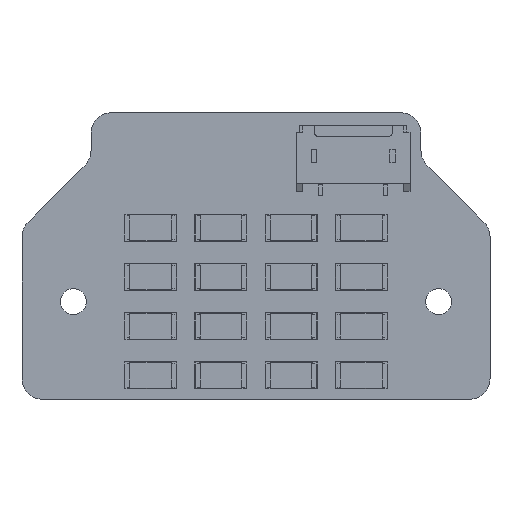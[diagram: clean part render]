
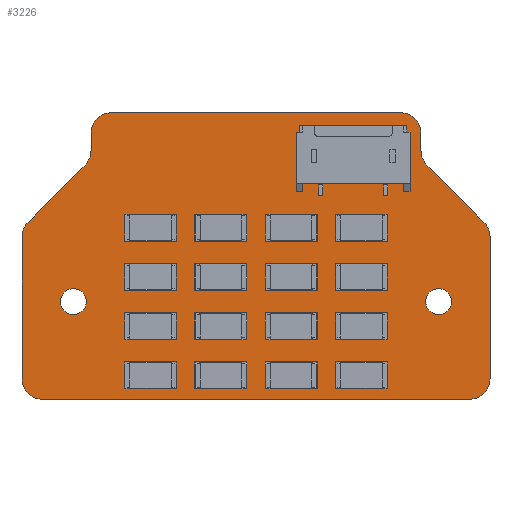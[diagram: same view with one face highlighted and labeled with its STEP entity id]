
A CAD part, top view. The second image highlights one B-rep face of the part: STEP entity #3226.
In plain terms, the highlighted planar face has unit normal (0, 0, 1).
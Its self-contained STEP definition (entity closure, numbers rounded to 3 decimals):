
#2692=FACE_OUTER_BOUND($,#2844,.F.);
#2710=FACE_OUTER_BOUND($,#2862,.T.);
#2714=FACE_OUTER_BOUND($,#2866,.T.);
#2844=EDGE_LOOP($,(#5195,#5196,#5197,#5198,#5199,#5200,#5201,#5202,#5203,
#5204,#5205,#5206,#5207,#5208,#5209,#5210));
#2862=EDGE_LOOP($,(#5291,#5292));
#2866=EDGE_LOOP($,(#5303,#5304));
#3060=PLANE($,#4888);
#3226=ADVANCED_FACE($,(#2692,#2710,#2714),#3060,.T.);
#3426=VECTOR($,#7324,2.123);
#3427=VECTOR($,#7325,35.56);
#3428=VECTOR($,#7326,2.123);
#3429=VECTOR($,#7327,9.929);
#3430=VECTOR($,#7328,17.49);
#3431=VECTOR($,#7329,52.578);
#3432=VECTOR($,#7330,17.49);
#3433=VECTOR($,#7331,9.929);
#4111=LINE($,#8527,#3426);
#4112=LINE($,#8529,#3427);
#4113=LINE($,#8531,#3428);
#4114=LINE($,#8533,#3429);
#4115=LINE($,#8535,#3430);
#4116=LINE($,#8537,#3431);
#4117=LINE($,#8539,#3432);
#4118=LINE($,#8541,#3433);
#4796=CIRCLE($,#4880,2.54);
#4797=CIRCLE($,#4881,2.54);
#4798=CIRCLE($,#4882,2.54);
#4799=CIRCLE($,#4883,2.54);
#4800=CIRCLE($,#4884,2.54);
#4801=CIRCLE($,#4885,2.54);
#4802=CIRCLE($,#4886,2.54);
#4803=CIRCLE($,#4887,2.54);
#4812=CIRCLE($,#4914,1.6);
#4813=CIRCLE($,#4915,1.6);
#4816=CIRCLE($,#4920,1.6);
#4817=CIRCLE($,#4921,1.6);
#4880=AXIS2_PLACEMENT_3D($,#8543,#7321,$);
#4881=AXIS2_PLACEMENT_3D($,#8544,#7321,$);
#4882=AXIS2_PLACEMENT_3D($,#8545,#7321,$);
#4883=AXIS2_PLACEMENT_3D($,#8546,#7321,$);
#4884=AXIS2_PLACEMENT_3D($,#8547,#7321,$);
#4885=AXIS2_PLACEMENT_3D($,#8548,#7321,$);
#4886=AXIS2_PLACEMENT_3D($,#8549,#7321,$);
#4887=AXIS2_PLACEMENT_3D($,#8550,#7321,$);
#4888=AXIS2_PLACEMENT_3D($,#8527,#7321,$);
#4914=AXIS2_PLACEMENT_3D($,#8587,#7321,$);
#4915=AXIS2_PLACEMENT_3D($,#8588,#7321,$);
#4920=AXIS2_PLACEMENT_3D($,#8599,#7321,$);
#4921=AXIS2_PLACEMENT_3D($,#8600,#7321,$);
#5195=ORIENTED_EDGE($,*,*,#6303,.T.);
#5196=ORIENTED_EDGE($,*,*,#6304,.T.);
#5197=ORIENTED_EDGE($,*,*,#6305,.T.);
#5198=ORIENTED_EDGE($,*,*,#6306,.T.);
#5199=ORIENTED_EDGE($,*,*,#6307,.T.);
#5200=ORIENTED_EDGE($,*,*,#6308,.T.);
#5201=ORIENTED_EDGE($,*,*,#6309,.T.);
#5202=ORIENTED_EDGE($,*,*,#6310,.T.);
#5203=ORIENTED_EDGE($,*,*,#6311,.T.);
#5204=ORIENTED_EDGE($,*,*,#6312,.T.);
#5205=ORIENTED_EDGE($,*,*,#6313,.T.);
#5206=ORIENTED_EDGE($,*,*,#6314,.T.);
#5207=ORIENTED_EDGE($,*,*,#6315,.T.);
#5208=ORIENTED_EDGE($,*,*,#6316,.T.);
#5209=ORIENTED_EDGE($,*,*,#6317,.T.);
#5210=ORIENTED_EDGE($,*,*,#6318,.T.);
#5291=ORIENTED_EDGE($,*,*,#6352,.T.);
#5292=ORIENTED_EDGE($,*,*,#6353,.T.);
#5303=ORIENTED_EDGE($,*,*,#6359,.T.);
#5304=ORIENTED_EDGE($,*,*,#6360,.T.);
#6303=EDGE_CURVE($,#6860,#6861,#4796,.T.);
#6304=EDGE_CURVE($,#6861,#6862,#4111,.T.);
#6305=EDGE_CURVE($,#6862,#6863,#4797,.F.);
#6306=EDGE_CURVE($,#6863,#6864,#4112,.T.);
#6307=EDGE_CURVE($,#6864,#6865,#4798,.F.);
#6308=EDGE_CURVE($,#6865,#6866,#4113,.T.);
#6309=EDGE_CURVE($,#6866,#6867,#4799,.T.);
#6310=EDGE_CURVE($,#6867,#6868,#4114,.T.);
#6311=EDGE_CURVE($,#6868,#6869,#4800,.F.);
#6312=EDGE_CURVE($,#6869,#6870,#4115,.T.);
#6313=EDGE_CURVE($,#6870,#6871,#4801,.F.);
#6314=EDGE_CURVE($,#6871,#6872,#4116,.T.);
#6315=EDGE_CURVE($,#6872,#6873,#4802,.F.);
#6316=EDGE_CURVE($,#6873,#6874,#4117,.T.);
#6317=EDGE_CURVE($,#6874,#6875,#4803,.F.);
#6318=EDGE_CURVE($,#6875,#6860,#4118,.T.);
#6352=EDGE_CURVE($,#6894,#6895,#4812,.F.);
#6353=EDGE_CURVE($,#6895,#6894,#4813,.F.);
#6359=EDGE_CURVE($,#6900,#6901,#4816,.F.);
#6360=EDGE_CURVE($,#6901,#6900,#4817,.F.);
#6860=VERTEX_POINT($,#8526);
#6861=VERTEX_POINT($,#8527);
#6862=VERTEX_POINT($,#8528);
#6863=VERTEX_POINT($,#8529);
#6864=VERTEX_POINT($,#8530);
#6865=VERTEX_POINT($,#8531);
#6866=VERTEX_POINT($,#8532);
#6867=VERTEX_POINT($,#8533);
#6868=VERTEX_POINT($,#8534);
#6869=VERTEX_POINT($,#8535);
#6870=VERTEX_POINT($,#8536);
#6871=VERTEX_POINT($,#8537);
#6872=VERTEX_POINT($,#8538);
#6873=VERTEX_POINT($,#8539);
#6874=VERTEX_POINT($,#8540);
#6875=VERTEX_POINT($,#8541);
#6894=VERTEX_POINT($,#8584);
#6895=VERTEX_POINT($,#8585);
#6900=VERTEX_POINT($,#8596);
#6901=VERTEX_POINT($,#8597);
#7321=DIRECTION($,(0.,0.,1.));
#7324=DIRECTION($,(0.,1.,0.));
#7325=DIRECTION($,(1.,0.,0.));
#7326=DIRECTION($,(0.,-1.,0.));
#7327=DIRECTION($,(0.707,-0.707,0.));
#7328=DIRECTION($,(0.,-1.,0.));
#7329=DIRECTION($,(-1.,0.,0.));
#7330=DIRECTION($,(0.,1.,0.));
#7331=DIRECTION($,(0.707,0.707,0.));
#8526=CARTESIAN_POINT('',(-21.064,-5.189,0.));
#8527=CARTESIAN_POINT('',(-20.32,-3.393,0.));
#8528=CARTESIAN_POINT('',(-20.32,-1.27,0.));
#8529=CARTESIAN_POINT('',(-17.78,1.27,0.));
#8530=CARTESIAN_POINT('',(17.78,1.27,0.));
#8531=CARTESIAN_POINT('',(20.32,-1.27,0.));
#8532=CARTESIAN_POINT('',(20.32,-3.393,0.));
#8533=CARTESIAN_POINT('',(21.064,-5.189,0.));
#8534=CARTESIAN_POINT('',(28.085,-12.21,0.));
#8535=CARTESIAN_POINT('',(28.829,-14.006,0.));
#8536=CARTESIAN_POINT('',(28.829,-31.496,0.));
#8537=CARTESIAN_POINT('',(26.289,-34.036,0.));
#8538=CARTESIAN_POINT('',(-26.289,-34.036,0.));
#8539=CARTESIAN_POINT('',(-28.829,-31.496,0.));
#8540=CARTESIAN_POINT('',(-28.829,-14.006,0.));
#8541=CARTESIAN_POINT('',(-28.085,-12.21,0.));
#8543=CARTESIAN_POINT('',(-22.86,-3.393,0.));
#8544=CARTESIAN_POINT('',(-17.78,-1.27,0.));
#8545=CARTESIAN_POINT('',(17.78,-1.27,0.));
#8546=CARTESIAN_POINT('',(22.86,-3.393,0.));
#8547=CARTESIAN_POINT('',(26.289,-14.006,0.));
#8548=CARTESIAN_POINT('',(26.289,-31.496,0.));
#8549=CARTESIAN_POINT('',(-26.289,-31.496,0.));
#8550=CARTESIAN_POINT('',(-26.289,-14.006,0.));
#8584=CARTESIAN_POINT('',(24.1,-22.,0.));
#8585=CARTESIAN_POINT('',(20.9,-22.,0.));
#8587=CARTESIAN_POINT('',(22.5,-22.,0.));
#8588=CARTESIAN_POINT('',(22.5,-22.,0.));
#8596=CARTESIAN_POINT('',(-20.9,-22.,0.));
#8597=CARTESIAN_POINT('',(-24.1,-22.,0.));
#8599=CARTESIAN_POINT('',(-22.5,-22.,0.));
#8600=CARTESIAN_POINT('',(-22.5,-22.,0.));
